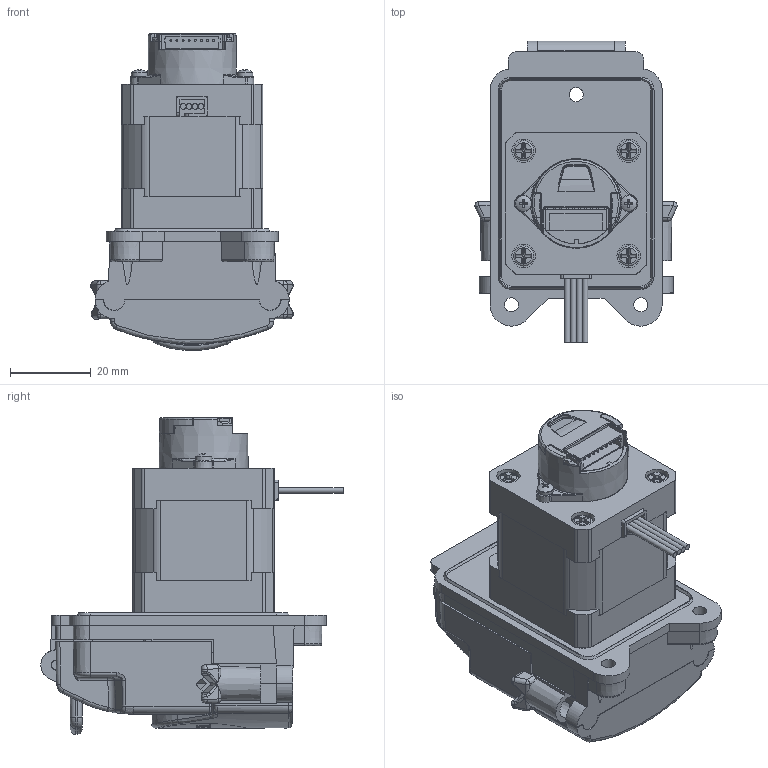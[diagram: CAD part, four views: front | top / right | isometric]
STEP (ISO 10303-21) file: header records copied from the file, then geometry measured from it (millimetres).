
FILE_DESCRIPTION (( 'STEP AP203' ), '1' );
FILE_NAME ('9802.7x0_9QX+Enc.STEP', '2024-06-13T14:26:41', ( '' ), ( '' ), 'SwSTEP 2.0', 'SolidWorks 2021', '' );
FILE_SCHEMA (( 'CONFIG_CONTROL_DESIGN' ));
Length unit declared in the file: millimetre
Products named in the file (13): countersunk flat head cross recess screw_iso_ISO 7046-1 - M2 x 8 - Z - 8S; K0315_M3X12MM_TX_DIN7985-ISO14583_M3X12mm; 1678_Soyo_NU35STH36-1004A_Encoder_300mm leads straight; countersunk flat head cross recess screw_iso_ISO 7046-1 - M3 x 16 - Z - 16S; 9000.3031_Rev01_9QX_TubeSaddle; 9802.7x0_9QX+Enc; 9000.3047_Rev01_9QX_GasketForCombiPlate; 9000.3040_Rev00_9QXScrewCover; K0757_2.5x10_DowelPin; 9000.3046_Rev00_9QX_StepperPlateCombi_11_01_22; 9000.3030_Rev00_9QX_Front; 9000.3013_Rev00_Lever; 9000.3029_Rev00_9QX_Clamp_Pre Mod
Assembly tree (17 placements, depth 2):
  9802.7x0_9QX+Enc
    9000.3046_Rev00_9QX_StepperPlateCombi_11_01_22
    9000.3047_Rev01_9QX_GasketForCombiPlate
    1678_Soyo_NU35STH36-1004A_Encoder_300mm leads straight
    9000.3029_Rev00_9QX_Clamp_Pre Mod
    9000.3013_Rev00_Lever
    9000.3030_Rev00_9QX_Front
    K0315_M3X12MM_TX_DIN7985-ISO14583_M3X12mm  x4
    K0757_2.5x10_DowelPin  x2
    countersunk flat head cross recess screw_iso_ISO 7046-1 - M3 x 16 - Z - 16S
    countersunk flat head cross recess screw_iso_ISO 7046-1 - M2 x 8 - Z - 8S
    9000.3031_Rev01_9QX_TubeSaddle  x2
    9000.3040_Rev00_9QXScrewCover
Bounding box: 50 x 74.75 x 78.34 mm (x, y, z)
Volume: 78417.1 mm3; surface area: 45620.3 mm2
Topology: 23 solids, 23 shells, 2372 faces, 5892 edges, 3603 vertices
Faces by surface type: plane 978, cylinder 602, bspline 340, cone 267, torus 127, sphere 58
Full cylindrical faces by diameter (mm): 0.5 x16, 1.2 x2, 1.4 x4, 2 x19, 2.4 x1, 2.5 x13, 2.7 x2, 2.8 x4, 2.95 x2, 3 x34, 3.2 x4, 3.5 x7, 3.8 x1, 4 x3, 5 x5, 5.2 x1, 5.5 x1, 5.6 x4, 5.8 x4, 6 x2, 7 x1, 10 x1, 12 x1, 22 x3, 22.2 x1
Entity records: 73241 total; most frequent: CARTESIAN_POINT 24466, ORIENTED_EDGE 10106, DIRECTION 9221, EDGE_CURVE 5053, AXIS2_PLACEMENT_3D 3458, VERTEX_POINT 3256, EDGE_LOOP 2543, FACE_OUTER_BOUND 2309
